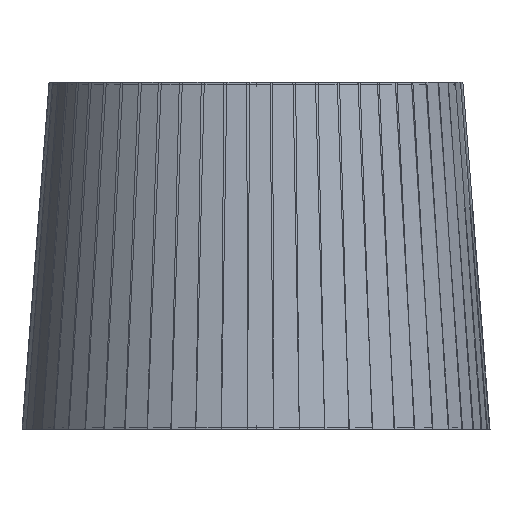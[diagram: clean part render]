
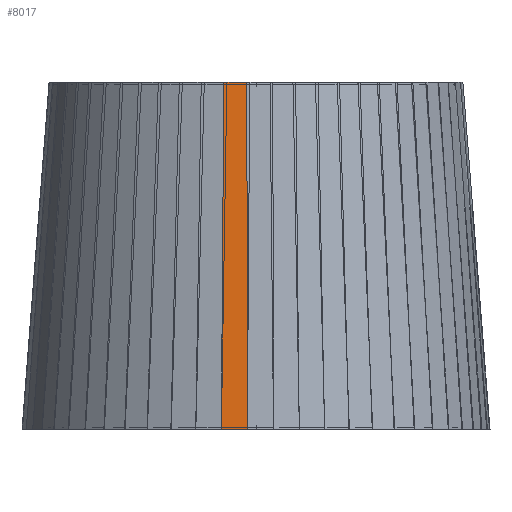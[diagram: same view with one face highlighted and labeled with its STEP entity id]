
A CAD part, front view. The second image highlights one B-rep face of the part: STEP entity #8017.
In plain terms, the highlighted planar face has unit normal (-0.06, -0.995, 0.078).
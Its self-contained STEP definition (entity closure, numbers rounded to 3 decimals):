
#351=FACE_OUTER_BOUND('',#855,.T.);
#855=EDGE_LOOP('',(#5694,#5695,#5696,#5697));
#1485=LINE('',#11636,#2539);
#1499=LINE('',#11663,#2553);
#1500=LINE('',#11665,#2554);
#1501=LINE('',#11666,#2555);
#2539=VECTOR('',#9460,304.8);
#2553=VECTOR('',#9482,304.8);
#2554=VECTOR('',#9485,304.8);
#2555=VECTOR('',#9486,304.8);
#3514=VERTEX_POINT('',#11632);
#3516=VERTEX_POINT('',#11635);
#3524=VERTEX_POINT('',#11659);
#3525=VERTEX_POINT('',#11661);
#4325=EDGE_CURVE('',#3516,#3514,#1485,.T.);
#4339=EDGE_CURVE('',#3524,#3525,#1499,.T.);
#4340=EDGE_CURVE('',#3524,#3514,#1500,.T.);
#4341=EDGE_CURVE('',#3516,#3525,#1501,.T.);
#5694=ORIENTED_EDGE('',*,*,#4340,.F.);
#5695=ORIENTED_EDGE('',*,*,#4339,.T.);
#5696=ORIENTED_EDGE('',*,*,#4341,.F.);
#5697=ORIENTED_EDGE('',*,*,#4325,.T.);
#7547=PLANE('',#8587);
#8017=ADVANCED_FACE('',(#351),#7547,.T.);
#8587=AXIS2_PLACEMENT_3D('',#11664,#9483,#9484);
#9460=DIRECTION('',(0.007,0.078,0.997));
#9482=DIRECTION('',(-0.007,-0.078,-0.997));
#9483=DIRECTION('center_axis',(-0.06,-0.995,0.078));
#9484=DIRECTION('ref_axis',(-0.998,0.06,0.003));
#9485=DIRECTION('',(0.998,-0.06,-0.003));
#9486=DIRECTION('',(-0.998,0.06,0.003));
#11632=CARTESIAN_POINT('',(-2.858,-95.146,160.));
#11635=CARTESIAN_POINT('',(-4.023,-107.591,0.));
#11636=CARTESIAN_POINT('',(-4.023,-107.591,0.));
#11659=CARTESIAN_POINT('',(-14.843,-94.424,160.031));
#11661=CARTESIAN_POINT('',(-16.008,-106.869,0.031));
#11663=CARTESIAN_POINT('',(-14.843,-94.424,160.031));
#11664=CARTESIAN_POINT('Origin',(-8.851,-94.785,160.016));
#11665=CARTESIAN_POINT('',(-14.843,-94.424,160.031));
#11666=CARTESIAN_POINT('',(-4.023,-107.591,0.));
